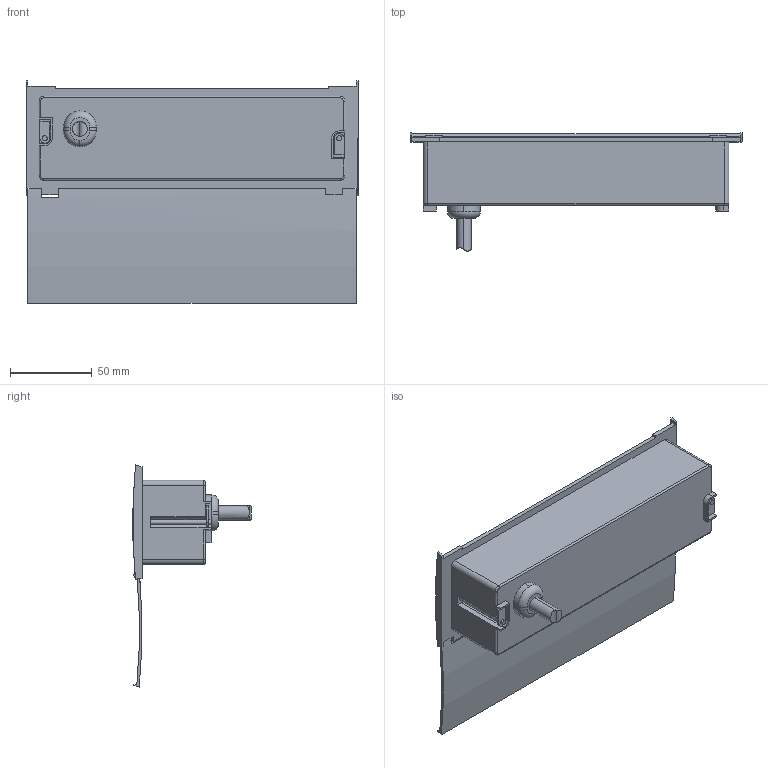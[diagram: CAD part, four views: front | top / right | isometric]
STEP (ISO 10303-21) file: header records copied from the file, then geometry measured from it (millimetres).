
FILE_DESCRIPTION (( 'STEP AP203' ), '1' );
FILE_NAME ('14-0943_KAPSA.STEP', '2026-01-19T05:38:04', ( '' ), ( '' ), 'SwSTEP 2.0', 'SolidWorks 2025', '' );
FILE_SCHEMA (( 'CONFIG_CONTROL_DESIGN' ));
Length unit declared in the file: millimetre
Products named in the file (1): 14-0943_KAPSA
Bounding box: 203.3 x 72.39 x 136 mm (x, y, z)
Volume: 430799.1 mm3; surface area: 81361.7 mm2
Topology: 1 solids, 1 shells, 262 faces, 682 edges, 446 vertices
Faces by surface type: plane 203, cylinder 52, torus 7
Entity records: 8128 total; most frequent: CARTESIAN_POINT 1473, ORIENTED_EDGE 1364, DIRECTION 1345, EDGE_CURVE 682, LINE 541, VECTOR 541, VERTEX_POINT 446, AXIS2_PLACEMENT_3D 402
